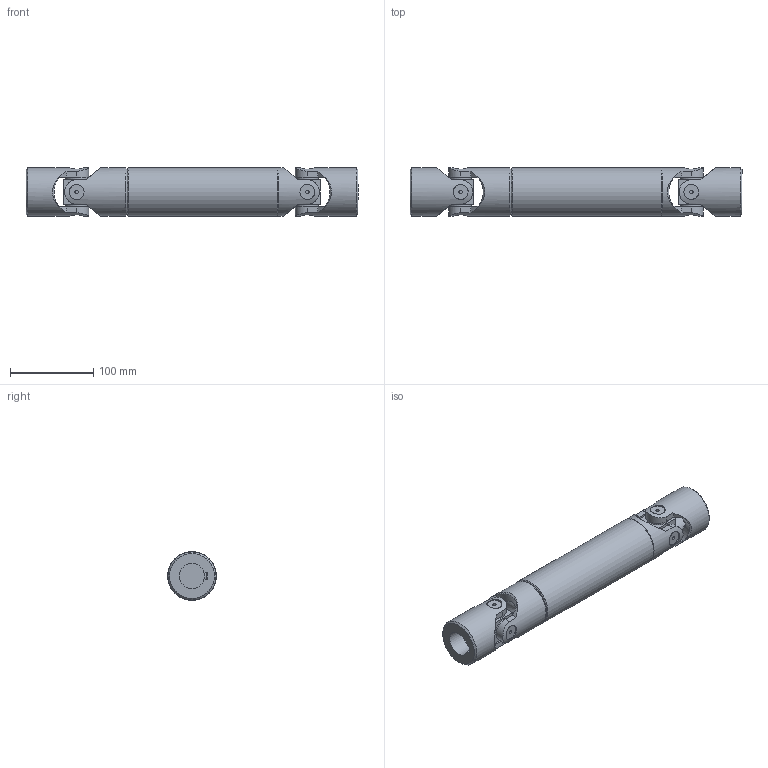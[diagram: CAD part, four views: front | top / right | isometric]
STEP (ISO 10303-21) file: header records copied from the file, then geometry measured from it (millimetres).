
FILE_DESCRIPTION(/* description */ (''),/* implementation_level */ '2;1');
FILE_NAME(/* name */ '\\SRV2016\Societa\Stefano\Disegni 3D\00Catalogo 3D\03Trasmissioni standard GA\6GA20\6GA20_SG0A3020.stp',/* time_stamp */ '2022-02-16T17:15:19+01:00',/* author */ ('acquisti'),/* organization */ (''),/* preprocessor_version */ 'ST-DEVELOPER v15.6',/* originating_system */ 'Autodesk Inventor 2015',/* authorisation */ '');
FILE_SCHEMA (('AUTOMOTIVE_DESIGN { 1 0 10303 214 3 1 1 }'));
Length unit declared in the file: millimetre
Products named in the file (5): 6GA20 LAI; 6GA20 LCI; 6G MOC; 6G SFE; 6GA20_SG0A3020
Assembly tree (6 placements, depth 2):
  6GA20_SG0A3020
    6GA20 LAI
    6GA20 LCI
    6G MOC  x2
    6G SFE  x2
Bounding box: 400 x 58.5 x 58.5 mm (x, y, z)
Volume: 760923.7 mm3; surface area: 166043.6 mm2
Topology: 6 solids, 6 shells, 220 faces, 561 edges, 377 vertices
Faces by surface type: plane 114, cylinder 77, cone 25, torus 4
Full cylindrical faces by diameter (mm): 4 x8, 18 x8, 26 x8, 30 x1, 32 x2, 49 x1, 58 x4, 58.5 x1
Entity records: 5899 total; most frequent: CARTESIAN_POINT 1695, DIRECTION 847, ORIENTED_EDGE 832, EDGE_CURVE 416, AXIS2_PLACEMENT_3D 331, VERTEX_POINT 300, EDGE_LOOP 228, LINE 185
